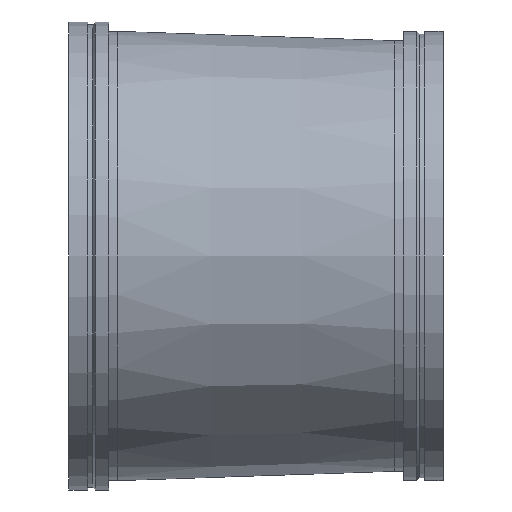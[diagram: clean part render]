
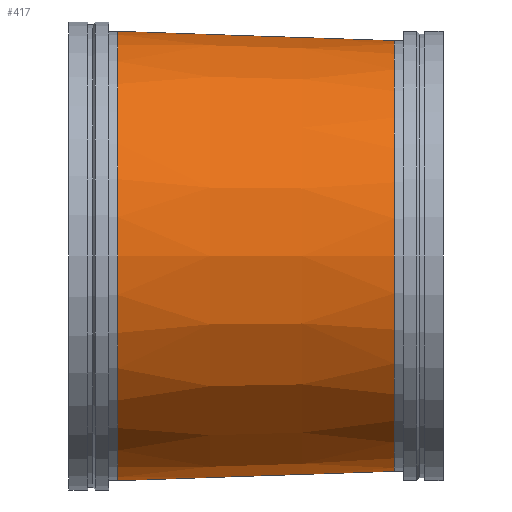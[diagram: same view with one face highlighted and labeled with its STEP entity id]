
A CAD part, front view. The second image highlights one B-rep face of the part: STEP entity #417.
In plain terms, the highlighted conical face has half-angle 1.941 degrees and reference radius 596.9 mm.
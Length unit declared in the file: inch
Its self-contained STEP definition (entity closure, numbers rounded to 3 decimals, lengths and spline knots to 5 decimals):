
#46=CONICAL_SURFACE('',#475,23.5,0.034);
#54=LINE('',#739,#68);
#68=VECTOR('',#587,23.5);
#101=FACE_OUTER_BOUND('',#124,.T.);
#124=EDGE_LOOP('',(#315,#316,#317,#318,#319,#320));
#155=CIRCLE('',#473,24.);
#156=CIRCLE('',#474,24.);
#157=CIRCLE('',#476,23.);
#158=CIRCLE('',#477,23.);
#195=VERTEX_POINT('',#729);
#196=VERTEX_POINT('',#730);
#197=VERTEX_POINT('',#735);
#198=VERTEX_POINT('',#736);
#239=EDGE_CURVE('',#195,#196,#155,.T.);
#240=EDGE_CURVE('',#196,#195,#156,.T.);
#242=EDGE_CURVE('',#197,#198,#157,.T.);
#243=EDGE_CURVE('',#198,#197,#158,.T.);
#244=EDGE_CURVE('',#198,#196,#54,.T.);
#315=ORIENTED_EDGE('',*,*,#242,.F.);
#316=ORIENTED_EDGE('',*,*,#243,.F.);
#317=ORIENTED_EDGE('',*,*,#244,.T.);
#318=ORIENTED_EDGE('',*,*,#240,.T.);
#319=ORIENTED_EDGE('',*,*,#239,.T.);
#320=ORIENTED_EDGE('',*,*,#244,.F.);
#417=ADVANCED_FACE('',(#101),#46,.T.);
#473=AXIS2_PLACEMENT_3D('',#731,#576,#577);
#474=AXIS2_PLACEMENT_3D('',#732,#578,#579);
#475=AXIS2_PLACEMENT_3D('',#734,#581,#582);
#476=AXIS2_PLACEMENT_3D('',#737,#583,#584);
#477=AXIS2_PLACEMENT_3D('',#738,#585,#586);
#576=DIRECTION('center_axis',(1.,0.,0.));
#577=DIRECTION('ref_axis',(0.,0.,-1.));
#578=DIRECTION('center_axis',(1.,0.,0.));
#579=DIRECTION('ref_axis',(0.,0.,-1.));
#581=DIRECTION('center_axis',(-1.,0.,0.));
#582=DIRECTION('ref_axis',(0.,1.,0.));
#583=DIRECTION('center_axis',(1.,0.,0.));
#584=DIRECTION('ref_axis',(0.,0.,-1.));
#585=DIRECTION('center_axis',(1.,0.,0.));
#586=DIRECTION('ref_axis',(0.,0.,-1.));
#587=DIRECTION('',(-0.999,-0.034,0.));
#729=CARTESIAN_POINT('',(5.25,24.,0.));
#730=CARTESIAN_POINT('',(5.25,-24.,0.));
#731=CARTESIAN_POINT('Origin',(5.25,0.,0.));
#732=CARTESIAN_POINT('Origin',(5.25,0.,0.));
#734=CARTESIAN_POINT('Origin',(20.,0.,0.));
#735=CARTESIAN_POINT('',(34.75,23.,0.));
#736=CARTESIAN_POINT('',(34.75,-23.,0.));
#737=CARTESIAN_POINT('Origin',(34.75,0.,0.));
#738=CARTESIAN_POINT('Origin',(34.75,0.,0.));
#739=CARTESIAN_POINT('',(20.,-23.5,0.));
